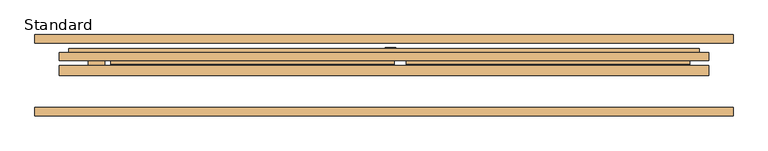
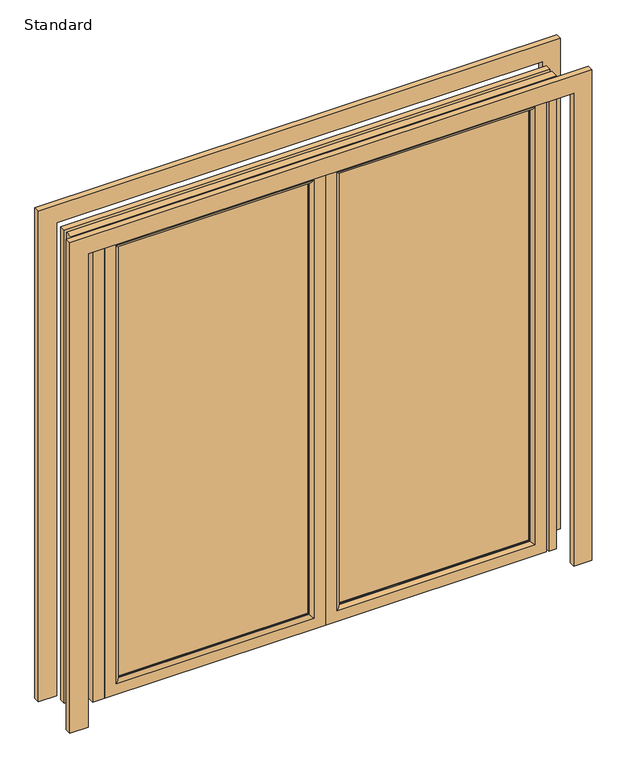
"""IFC4 building model written with IfcOpenShell, lengths in millimetres: door geometry, SMARTS_Visofold1000 : Standard."""

import ifcopenshell
import ifcopenshell.guid

model = None  # the IFC model being written
_history = None  # IfcOwnerHistory: only IFC2X3 demands one
_inside = {}  # id of a spatial element -> (the spatial element, [elements in it])
_under = {}  # id of a project, library or spatial element -> (it, [spatial elements below it])
_declared = {}  # id of a project -> (the project, [libraries it declares])
_typed = {}  # id of a type object -> (the type object, [elements of that type])
_made_of = {}  # id of a material, layer set ... -> (it, [elements and type objects made of it])


def new_model(schema):
    """Start an empty IFC model of exactly this schema.

    Asked for "IFC4X3", IfcOpenShell would pick the latest addendum, in which some entities
    have other attributes; the version numbers below select the first issue.
    IFC2X3 requires an IfcOwnerHistory on every rooted entity: one is made here for all.
    """
    global model, _history
    if schema == "IFC4X3":
        model = ifcopenshell.file(schema_version=(4, 3, 0, 0))
    else:
        model = ifcopenshell.file(schema=schema)
    _inside.clear()
    _under.clear()
    _declared.clear()
    _typed.clear()
    _made_of.clear()
    _history = None
    if model.schema == "IFC2X3":
        org = make("IfcOrganization", Name="unknown")
        user = make(
            "IfcPersonAndOrganization",
            ThePerson=make("IfcPerson", FamilyName="unknown"),
            TheOrganization=org,
        )
        app = make(
            "IfcApplication",
            ApplicationDeveloper=org,
            Version="unknown",
            ApplicationFullName="unknown",
            ApplicationIdentifier="unknown",
        )
        _history = make(
            "IfcOwnerHistory",
            OwningUser=user,
            OwningApplication=app,
            ChangeAction="ADDED",
            CreationDate=0,
        )
    return model


def make(cls, **values):
    """One entity of the class cls with the attributes given. An attribute that is None is left unset."""
    return model.create_entity(
        cls, **{name: value for name, value in values.items() if value is not None}
    )


def rooted(cls, **values):
    """An entity with a GlobalId (a new one), such as an element, a storey or a relation."""
    return make(cls, GlobalId=ifcopenshell.guid.new(), OwnerHistory=_history, **values)


def si_unit(unit_type, name, prefix=None):
    """IfcSIUnit, for example si_unit("LENGTHUNIT", "METRE", prefix="MILLI")."""
    return make("IfcSIUnit", UnitType=unit_type, Prefix=prefix, Name=name)


def assignment(units):
    """IfcUnitAssignment: the units of a project."""
    return None if units is None else make("IfcUnitAssignment", Units=units)


def point(xyz):
    """IfcCartesianPoint."""
    return None if xyz is None else make("IfcCartesianPoint", Coordinates=xyz)


def direction(xyz):
    """IfcDirection."""
    return None if xyz is None else make("IfcDirection", DirectionRatios=xyz)


def frame(location, z_axis=None, x_axis=None):
    """IfcAxis2Placement3D, a coordinate frame: its origin and axes. An axis left out is left unset."""
    return make(
        "IfcAxis2Placement3D",
        Location=point(location),
        Axis=direction(z_axis),
        RefDirection=direction(x_axis),
    )


def frame_2d(location, x_axis=None):
    """IfcAxis2Placement2D, a coordinate frame in the plane: its origin and x axis."""
    return make(
        "IfcAxis2Placement2D", Location=point(location), RefDirection=direction(x_axis)
    )


def origin():
    """The frame at (0, 0, 0) with its axes left unset."""
    return frame((0.0, 0.0, 0.0))


def origin_with_axes():
    """The frame at (0, 0, 0) with the z axis (0, 0, 1) and the x axis (1, 0, 0) written out."""
    return frame((0.0, 0.0, 0.0), z_axis=(0.0, 0.0, 1.0), x_axis=(1.0, 0.0, 0.0))


def place(relative_to, where):
    """IfcLocalPlacement: puts the frame where relative to a parent placement (None: the world)."""
    return make(
        "IfcLocalPlacement", PlacementRelTo=relative_to, RelativePlacement=where
    )


def context(
    kind, dimensions, precision=None, world=None, true_north=None, identifier=None
):
    """IfcGeometricRepresentationContext, for example the 3D "Model" context."""
    return make(
        "IfcGeometricRepresentationContext",
        ContextIdentifier=identifier,
        ContextType=kind,
        CoordinateSpaceDimension=dimensions,
        Precision=precision,
        WorldCoordinateSystem=world,
        TrueNorth=true_north,
    )


def project(units=None, contexts=None):
    """IfcProject with its units and contexts."""
    return rooted(
        "IfcProject",
        Name="project",
        RepresentationContexts=contexts,
        UnitsInContext=assignment(units),
    )


def spatial(cls, under=None, at=None, **own):
    """A site, building, storey or space (cls), placed at a placement, below another one or the project."""
    s = rooted(cls, ObjectPlacement=at, **own)
    if under is not None:
        _under.setdefault(under.id(), (under, []))[1].append(s)
    return s


def polyline(points):
    """IfcPolyline through the points."""
    return make("IfcPolyline", Points=[point(p) for p in points])


def circle_curve(where, radius):
    """IfcCircle in the frame where."""
    return make("IfcCircle", Position=where, Radius=radius)


def ellipse_curve(where, semi_axis1, semi_axis2):
    """IfcEllipse in the frame where."""
    return make(
        "IfcEllipse", Position=where, SemiAxis1=semi_axis1, SemiAxis2=semi_axis2
    )


def trimmed(basis, trim1, trim2, sense, master):
    """IfcTrimmedCurve: the piece of a basis curve between two trims."""
    return make(
        "IfcTrimmedCurve",
        BasisCurve=basis,
        Trim1=trim1,
        Trim2=trim2,
        SenseAgreement=sense,
        MasterRepresentation=master,
    )


def segment(curve, same_sense, transition):
    """IfcCompositeCurveSegment."""
    return make(
        "IfcCompositeCurveSegment",
        Transition=transition,
        SameSense=same_sense,
        ParentCurve=curve,
    )


def composite_curve(segments, self_intersect=None):
    """IfcCompositeCurve: segments joined end to end."""
    return make("IfcCompositeCurve", Segments=segments, SelfIntersect=self_intersect)


def outline(outer, holes=None, kind="AREA"):
    """IfcArbitraryClosedProfileDef: a profile drawn as a closed curve; with holes, ...WithVoids."""
    if holes is None:
        return make("IfcArbitraryClosedProfileDef", ProfileType=kind, OuterCurve=outer)
    return make(
        "IfcArbitraryProfileDefWithVoids",
        ProfileType=kind,
        OuterCurve=outer,
        InnerCurves=holes,
    )


def extrude(swept, where, along, depth):
    """IfcExtrudedAreaSolid: the profile swept, set in the frame where, extruded along a direction by depth."""
    return make(
        "IfcExtrudedAreaSolid",
        SweptArea=swept,
        Position=where,
        ExtrudedDirection=direction(along),
        Depth=depth,
    )


def faces_of(points, faces, orient=None, outer=None):
    """IfcFace entities. A face is a list of loops; a loop is a list of indices into points, from 0.

    orient and outer hold one flag for each loop. By default every Orientation is true, the
    first loop of a face is its IfcFaceOuterBound and the others are IfcFaceBound.
    """
    made = []
    for i, loops in enumerate(faces):
        bounds = []
        for j, loop in enumerate(loops):
            is_outer = j == 0 if outer is None else outer[i][j]
            bounds.append(
                make(
                    "IfcFaceOuterBound" if is_outer else "IfcFaceBound",
                    Bound=make("IfcPolyLoop", Polygon=[points[k] for k in loop]),
                    Orientation=True if orient is None else orient[i][j],
                )
            )
        made.append(make("IfcFace", Bounds=bounds))
    return made


def faceted_brep(points, faces, orient=None, outer=None, voids=None):
    """IfcFacetedBrep: a solid bounded by flat faces; with voids (closed shells), ...WithVoids."""
    shared = [point(p) for p in points]
    hull = make("IfcClosedShell", CfsFaces=faces_of(shared, faces, orient, outer))
    if voids is None:
        return make("IfcFacetedBrep", Outer=hull)
    return make(
        "IfcFacetedBrepWithVoids",
        Outer=hull,
        Voids=[
            make(cls, CfsFaces=faces_of(shared, fs, o, b)) for cls, fs, o, b in voids
        ],
    )


def shape(context_of_items, identifier, shape_type, items):
    """IfcShapeRepresentation: the items that make up one representation, for example the "Body"."""
    return make(
        "IfcShapeRepresentation",
        ContextOfItems=context_of_items,
        RepresentationIdentifier=identifier,
        RepresentationType=shape_type,
        Items=items,
    )


def source(mapping_origin, context_of_items, identifier, shape_type, items):
    """IfcRepresentationMap: a shape defined once, which mapped items show again and again."""
    return make(
        "IfcRepresentationMap",
        MappingOrigin=mapping_origin,
        MappedRepresentation=shape(context_of_items, identifier, shape_type, items),
    )


def transform(
    local_origin,
    x_axis=None,
    y_axis=None,
    z_axis=None,
    scale=None,
    scale2=None,
    scale3=None,
    uniform=True,
):
    """IfcCartesianTransformationOperator3D, or its non-uniform kind. x_axis, y_axis, z_axis: its Axis1, 2, 3."""
    if uniform:
        return make(
            "IfcCartesianTransformationOperator3D",
            Axis1=direction(x_axis),
            Axis2=direction(y_axis),
            LocalOrigin=point(local_origin),
            Scale=scale,
            Axis3=direction(z_axis),
        )
    return make(
        "IfcCartesianTransformationOperator3DnonUniform",
        Axis1=direction(x_axis),
        Axis2=direction(y_axis),
        LocalOrigin=point(local_origin),
        Scale=scale,
        Axis3=direction(z_axis),
        Scale2=scale2,
        Scale3=scale3,
    )


def mapped(mapping_source, mapping_target):
    """IfcMappedItem: shows the shape of a source again, moved by a transform."""
    return make(
        "IfcMappedItem", MappingSource=mapping_source, MappingTarget=mapping_target
    )


def made_of(thing, what):
    """Note that an element or type object is made of a material, layer set ...; save() writes the relation."""
    if what is not None:
        _made_of.setdefault(what.id(), (what, []))[1].append(thing)
    return thing


def element(
    cls,
    number,
    at=None,
    inside=None,
    cuts=None,
    type_object=None,
    material=None,
    context=None,
    identifier="Body",
    shape_type=None,
    held_by="IfcProductDefinitionShape",
    body=None,
    shapes=None,
    **own,
):
    """One element of the class cls, such as IfcWall. Its Tag is "e" and its number.

    at: its placement. inside: the storey or other place that contains it. cuts: it is an
    opening in that element (IfcRelVoidsElement). A single representation is given by context,
    identifier, shape_type and body (its items); several are given by shapes. held_by: the class
    of the entity that holds the representations. save() writes the other relations.
    """
    e = rooted(cls, Tag="e%d" % number, ObjectPlacement=at, **own)
    if body is not None:
        shapes = [shape(context, identifier, shape_type, body)]
    if shapes is not None:
        e.Representation = make(held_by, Representations=shapes)
    if inside is not None:
        _inside.setdefault(inside.id(), (inside, []))[1].append(e)
    if cuts is not None:
        rooted(
            "IfcRelVoidsElement", RelatingBuildingElement=cuts, RelatedOpeningElement=e
        )
    if type_object is not None:
        _typed.setdefault(type_object.id(), (type_object, []))[1].append(e)
    return made_of(e, material)


def aggregate(whole, parts):
    """IfcRelAggregates: a whole, such as a stair, and the parts it consists of."""
    return rooted("IfcRelAggregates", RelatingObject=whole, RelatedObjects=parts)


def save(model, path):
    """Write the relations noted so far, then the file.

    IfcRelAggregates (storeys below a building ...), IfcRelContainedInSpatialStructure (elements
    in a storey), IfcRelDefinesByType, IfcRelAssociatesMaterial and IfcRelDeclares: one each for
    every whole, place, type object, material and project.
    """
    for whole, parts in _under.values():
        aggregate(whole, parts)
    for where, things in _inside.values():
        rooted(
            "IfcRelContainedInSpatialStructure",
            RelatedElements=things,
            RelatingStructure=where,
        )
    for kind, things in _typed.values():
        rooted("IfcRelDefinesByType", RelatedObjects=things, RelatingType=kind)
    for what, things in _made_of.values():
        rooted("IfcRelAssociatesMaterial", RelatedObjects=things, RelatingMaterial=what)
    for by, libraries in _declared.values():
        rooted("IfcRelDeclares", RelatingContext=by, RelatedDefinitions=libraries)
    model.write(path)


def plane_surface(at):
    """IfcPlane: the flat surface through the origin of the frame at, square to its z axis."""
    return make("IfcPlane", Position=at)


def cylinder_surface(at, radius):
    """IfcCylindricalSurface: all points at the distance radius from the z axis of the frame at."""
    return make("IfcCylindricalSurface", Position=at, Radius=radius)


def advanced_brep(points, edges, surfaces, faces):
    """IfcAdvancedBrep: a solid bounded by faces that lie on surfaces and meet in shared edges.

    An edge is (start, end): straight between two places in points (the first is 0);
    or (start, end, curve); or (start, end, curve, False) where it runs against its curve.
    A face is (place in surfaces, loops), or (place, loops, False) where it looks against
    its surface's normal. A loop lists edges by number (the first is 1), with a minus sign
    where the edge is run from its end to its start. The first loop is the outer one.
    """
    corners = [point(p) for p in points]
    vertices = [make("IfcVertexPoint", VertexGeometry=c) for c in corners]
    made = []
    for start, end, *more in edges:
        made.append(
            make(
                "IfcEdgeCurve",
                EdgeStart=vertices[start],
                EdgeEnd=vertices[end],
                EdgeGeometry=more[0] if more else make("IfcPolyline", Points=[corners[start], corners[end]]),
                SameSense=more[1] if len(more) > 1 else True,
            )
        )
    hull = []
    for where, loops, *sense in faces:
        bounds = []
        for j, loop in enumerate(loops):
            ring = [make("IfcOrientedEdge", EdgeElement=made[abs(k) - 1], Orientation=k > 0) for k in loop]
            bounds.append(
                make(
                    "IfcFaceOuterBound" if j == 0 else "IfcFaceBound",
                    Bound=make("IfcEdgeLoop", EdgeList=ring),
                    Orientation=True,
                )
            )
        hull.append(make("IfcAdvancedFace", Bounds=bounds, FaceSurface=surfaces[where], SameSense=sense[0] if sense else True))
    return make("IfcAdvancedBrep", Outer=make("IfcClosedShell", CfsFaces=hull))


def standard_de9cbb4d(model_context):
    return source(origin(), model_context, "Body", "SolidModel", [
        extrude(outline(composite_curve([segment(polyline([(1228.0996413, 4.0), (1040.0996413, 4.0)]), True, "CONTINUOUS"), segment(trimmed(circle_curve(frame_2d((1040.0996413, 20.0)), 16.0), [point((1040.0996413, 4.0))], [point((1040.0996413, 36.0))], False, "CARTESIAN"), True, "CONTINUOUS"), segment(polyline([(1040.0996413, 36.0), (1228.0996413, 36.0)]), True, "CONTINUOUS"), segment(trimmed(circle_curve(frame_2d((1228.0996413, 20.0)), 16.0), [point((1228.0996413, 36.0))], [point((1228.0996413, 4.0))], False, "CARTESIAN"), True, "CONTINUOUS")], self_intersect=False)), frame((0.0, 75.0, 0.0), z_axis=(0.0, 1.0, 0.0), x_axis=(0.0, 0.0, 1.0)), (0.0, 0.0, 1.0), 10.0),
        extrude(outline(polyline([(45.0, 5.0), (1955.0, 5.0), (1955.0, -815.0), (45.0, -815.0), (45.0, 5.0)]), holes=[polyline([(1939.5, -10.5), (60.5, -10.5), (60.5, -799.5), (1939.5, -799.5), (1939.5, -10.5)])]), frame((0.0, 17.4, 0.0), z_axis=(0.0, 1.0, 0.0), x_axis=(0.0, 0.0, 1.0)), (0.0, 0.0, 1.0), 35.0),
        faceted_brep([(50.0, 74.4, 0.0), (50.0, 74.4, 2000.0), (50.0, 52.4, 2000.0), (50.0, 52.4, 0.0), (-10.5, 52.4, 60.5), (-10.5, 52.4, 1939.5), (-10.5, 74.4, 1939.5), (-10.5, 74.4, 60.5), (-860.0, 74.4, 2000.0), (-860.0, 52.4, 2000.0), (-799.5, 52.4, 1939.5), (-799.5, 74.4, 1939.5), (-860.0, 74.4, 0.0), (-860.0, 52.4, 0.0), (-799.5, 52.4, 60.5), (-799.5, 74.4, 60.5), (32.1308519, 34.8, 17.8691481), (32.1308519, 34.8, 1982.1308519), (-842.1308519, 34.8, 1982.1308519), (-842.1308519, 34.8, 17.8691481), (5.0, 34.8, 1955.0), (5.0, 34.8, 45.0), (-815.0, 34.8, 45.0), (-815.0, 34.8, 1955.0), (32.1308519, 52.4, 17.8691481), (32.1308519, 52.4, 1982.1308519), (5.0, 52.4, 1955.0), (5.0, 52.4, 45.0), (-842.1308519, 52.4, 1982.1308519), (-815.0, 52.4, 1955.0), (-842.1308519, 52.4, 17.8691481), (-815.0, 52.4, 45.0)], [[[0, 1, 2, 3]], [[4, 5, 6, 7]], [[1, 8, 9, 2]], [[5, 10, 11, 6]], [[8, 12, 13, 9]], [[10, 14, 15, 11]], [[12, 0, 3, 13]], [[1, 0, 12, 8], [7, 6, 11, 15]], [[14, 4, 7, 15]], [[16, 17, 18, 19], [20, 21, 22, 23]], [[24, 25, 17, 16]], [[21, 20, 26, 27]], [[25, 28, 18, 17]], [[20, 23, 29, 26]], [[28, 30, 19, 18]], [[23, 22, 31, 29]], [[30, 24, 16, 19]], [[3, 2, 9, 13], [25, 24, 30, 28]], [[27, 26, 29, 31], [5, 4, 14, 10]], [[22, 21, 27, 31]]]),
        advanced_brep(
        [(-10.5, 13.3, 60.5), (-10.5, 13.3, 1939.5), (-10.5, 17.4, 1939.5), (-10.5, 17.4, 60.5), (50.0, 17.4, 0.0), (50.0, 17.4, 2000.0), (50.0, 0.0, 2000.0), (50.0, 0.0, 0.0), (-799.5, 13.3, 1939.5), (-799.5, 17.4, 1939.5), (-860.0, 17.4, 2000.0), (-860.0, 0.0, 2000.0), (-799.5, 13.3, 60.5), (-799.5, 17.4, 60.5), (-860.0, 17.4, 0.0), (-860.0, 0.0, 0.0), (2.8, 0.0, 1952.8), (2.8, 0.0, 47.2), (-812.8, 0.0, 47.2), (-812.8, 0.0, 1952.8), (32.1308519, 34.8, 17.8691481), (32.1308519, 34.8, 1982.1308519), (32.1308519, 17.4, 1982.1308519), (32.1308519, 17.4, 17.8691481), (-842.1308519, 34.8, 1982.1308519), (-842.1308519, 17.4, 1982.1308519), (-842.1308519, 34.8, 17.8691481), (-842.1308519, 17.4, 17.8691481), (5.0, 17.4, 45.0), (5.0, 17.4, 1955.0), (5.0, 34.8, 1955.0), (5.0, 34.8, 45.0), (-815.0, 17.4, 1955.0), (-815.0, 34.8, 1955.0), (-815.0, 17.4, 45.0), (-815.0, 34.8, 45.0)],
        [
            (0, 1),
            (1, 2),
            (2, 3),
            (3, 0),
            (4, 5),
            (5, 6),
            (6, 7),
            (7, 4),
            (1, 8),
            (8, 9),
            (9, 2),
            (5, 10),
            (10, 11),
            (11, 6),
            (8, 12),
            (12, 13),
            (13, 9),
            (10, 14),
            (14, 15),
            (15, 11),
            (12, 0),
            (3, 13),
            (15, 7),
            (16, 17),
            (17, 18),
            (18, 19),
            (19, 16),
            (14, 4),
            (16, 1, ellipse_curve(frame((2.8, 13.3, 1952.8), z_axis=(0.7071067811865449, 0.0, -0.70710678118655), x_axis=(-0.7071067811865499, 0.0, -0.707106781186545)), 18.8090404, 13.3)),
            (0, 17, ellipse_curve(frame((2.8, 13.3, 47.2), z_axis=(0.70710678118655, 0.0, 0.7071067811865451), x_axis=(0.707106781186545, 0.0, -0.7071067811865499)), 18.8090404, 13.3)),
            (19, 8, ellipse_curve(frame((-812.8, 13.3, 1952.8), z_axis=(0.7071067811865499, 0.0, 0.7071067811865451), x_axis=(0.7071067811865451, 0.0, -0.70710678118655)), 18.8090404, 13.3)),
            (18, 12, ellipse_curve(frame((-812.8, 13.3, 47.2), z_axis=(-0.7071067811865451, 0.0, 0.7071067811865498), x_axis=(0.7071067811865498, 0.0, 0.7071067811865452)), 18.8090404, 13.3)),
            (20, 21),
            (21, 22),
            (22, 23),
            (23, 20),
            (21, 24),
            (24, 25),
            (25, 22),
            (24, 26),
            (26, 27),
            (27, 25),
            (27, 23),
            (26, 20),
            (28, 29),
            (29, 30),
            (30, 31),
            (31, 28),
            (29, 32),
            (32, 33),
            (33, 30),
            (32, 34),
            (34, 35),
            (35, 33),
            (34, 28),
            (31, 35),
        ],
        [
            plane_surface(frame((-10.5, 17.4, 60.5), z_axis=(-1.0, 0.0, 0.0), x_axis=(0.0, 0.0, 1.0))),
            plane_surface(frame((50.0, 0.0, 0.0), z_axis=(1.0, 0.0, 0.0), x_axis=(0.0, 0.0, 1.0))),
            plane_surface(frame((-10.5, 17.4, 1939.5), z_axis=(0.0, 0.0, -1.0), x_axis=(-1.0, 0.0, 0.0))),
            plane_surface(frame((50.0, 0.0, 2000.0), z_axis=(0.0, 0.0, 1.0), x_axis=(-1.0, 0.0, 0.0))),
            plane_surface(frame((-799.5, 17.4, 1939.5), z_axis=(1.0, 0.0, 0.0), x_axis=(0.0, 0.0, -1.0))),
            plane_surface(frame((-860.0, 0.0, 2000.0), z_axis=(-1.0, 0.0, 0.0), x_axis=(0.0, 0.0, -1.0))),
            plane_surface(frame((-799.5, 17.4, 60.5), z_axis=(0.0, 0.0, 1.0), x_axis=(1.0, 0.0, 0.0))),
            plane_surface(frame((-812.8, 0.0, 47.2), z_axis=(0.0, -1.0, 0.0), x_axis=(1.0, 0.0, 0.0))),
            plane_surface(frame((-860.0, 0.0, 0.0), z_axis=(0.0, 0.0, -1.0), x_axis=(1.0, 0.0, 0.0))),
            cylinder_surface(frame((2.8, 13.3, 0.0), z_axis=(0.0, 0.0, -1.0), x_axis=(0.0, 1.0, 0.0)), 13.3),
            cylinder_surface(frame((50.0, 13.3, 1952.8), z_axis=(1.0, 0.0, 0.0), x_axis=(0.0, 1.0, 0.0)), 13.3),
            cylinder_surface(frame((-812.8, 13.3, 2000.0), z_axis=(0.0, 0.0, 1.0), x_axis=(0.0, 1.0, 0.0)), 13.3),
            cylinder_surface(frame((-860.0, 13.3, 47.2), z_axis=(-1.0, 0.0, 0.0), x_axis=(0.0, 1.0, 0.0)), 13.3),
            plane_surface(frame((32.1308519, 17.4, 17.8691481), z_axis=(1.0, 0.0, 0.0), x_axis=(0.0, 0.0, 1.0))),
            plane_surface(frame((32.1308519, 17.4, 1982.1308519), z_axis=(0.0, 0.0, 1.0), x_axis=(-1.0, 0.0, 0.0))),
            plane_surface(frame((-842.1308519, 17.4, 1982.1308519), z_axis=(-1.0, 0.0, 0.0), x_axis=(0.0, 0.0, -1.0))),
            plane_surface(frame((-860.0, 17.4, 0.0), z_axis=(0.0, 1.0, 0.0), x_axis=(1.0, 0.0, 0.0))),
            plane_surface(frame((-842.1308519, 17.4, 17.8691481), z_axis=(0.0, 0.0, -1.0), x_axis=(1.0, 0.0, 0.0))),
            plane_surface(frame((5.0, 34.8, 45.0), z_axis=(-1.0, 0.0, 0.0), x_axis=(0.0, 0.0, 1.0))),
            plane_surface(frame((5.0, 34.8, 1955.0), z_axis=(0.0, 0.0, -1.0), x_axis=(-1.0, 0.0, 0.0))),
            plane_surface(frame((-815.0, 34.8, 1955.0), z_axis=(1.0, 0.0, 0.0), x_axis=(0.0, 0.0, -1.0))),
            plane_surface(frame((-815.0, 34.8, 45.0), z_axis=(0.0, 0.0, 1.0), x_axis=(1.0, 0.0, 0.0))),
            plane_surface(frame((-815.0, 17.4, 45.0), z_axis=(0.0, 1.0, 0.0), x_axis=(1.0, 0.0, 0.0))),
            plane_surface(frame((-842.1308519, 34.8, 17.8691481), z_axis=(0.0, 1.0, 0.0), x_axis=(1.0, 0.0, 0.0))),
        ],
        [
            (0, [[1, 2, 3, 4]]),
            (1, [[5, 6, 7, 8]]),
            (2, [[9, 10, 11, -2]]),
            (3, [[12, 13, 14, -6]]),
            (4, [[15, 16, 17, -10]]),
            (5, [[18, 19, 20, -13]]),
            (6, [[21, -4, 22, -16]]),
            (7, [[-7, -14, -20, 23], [24, 25, 26, 27]]),
            (8, [[28, -8, -23, -19]]),
            (9, [[-24, 29, -1, 30]]),
            (10, [[-27, 31, -9, -29]]),
            (11, [[-26, 32, -15, -31]]),
            (12, [[-25, -30, -21, -32]]),
            (13, [[33, 34, 35, 36]]),
            (14, [[37, 38, 39, -34]]),
            (15, [[40, 41, 42, -38]]),
            (16, [[-5, -28, -18, -12], [-35, -39, -42, 43]]),
            (17, [[44, -36, -43, -41]]),
            (18, [[45, 46, 47, 48]]),
            (19, [[49, 50, 51, -46]]),
            (20, [[52, 53, 54, -50]]),
            (21, [[55, -48, 56, -53]]),
            (22, [[-45, -55, -52, -49], [-3, -11, -17, -22]]),
            (23, [[-33, -44, -40, -37], [-47, -51, -54, -56]]),
        ],
    ),
        extrude(outline(polyline([(-10.5, 50.1484783), (-10.5, 21.4), (-799.5, 21.4), (-799.5, 50.1484783), (-10.5, 50.1484783)])), frame((0.0, 0.0, 60.5), z_axis=(0.0, 0.0, 1.0), x_axis=(1.0, 0.0, 0.0)), (0.0, 0.0, 1.0), 1879.0),
        extrude(outline(polyline([(45.0, 95.0), (45.0, 915.0), (1955.0, 915.0), (1955.0, 95.0), (45.0, 95.0)]), holes=[polyline([(1939.5, 110.5), (1939.5, 899.5), (60.5, 899.5), (60.5, 110.5), (1939.5, 110.5)])]), frame((0.0, 17.4, 0.0), z_axis=(0.0, 1.0, 0.0), x_axis=(0.0, 0.0, 1.0)), (0.0, 0.0, 1.0), 35.0),
        faceted_brep([(50.0, 74.4, 0.0), (50.0, 52.4, 0.0), (50.0, 52.4, 2000.0), (50.0, 74.4, 2000.0), (110.5, 52.4, 60.5), (110.5, 74.4, 60.5), (110.5, 74.4, 1939.5), (110.5, 52.4, 1939.5), (960.0, 74.4, 0.0), (960.0, 52.4, 0.0), (960.0, 52.4, 2000.0), (960.0, 74.4, 2000.0), (899.5, 74.4, 1939.5), (899.5, 52.4, 1939.5), (899.5, 74.4, 60.5), (899.5, 52.4, 60.5), (67.8691481, 34.8, 17.8691481), (942.1308519, 34.8, 17.8691481), (942.1308519, 34.8, 1982.1308519), (67.8691481, 34.8, 1982.1308519), (95.0, 34.8, 1955.0), (915.0, 34.8, 1955.0), (915.0, 34.8, 45.0), (95.0, 34.8, 45.0), (67.8691481, 52.4, 17.8691481), (67.8691481, 52.4, 1982.1308519), (95.0, 52.4, 45.0), (95.0, 52.4, 1955.0), (942.1308519, 52.4, 1982.1308519), (915.0, 52.4, 1955.0), (942.1308519, 52.4, 17.8691481), (915.0, 52.4, 45.0)], [[[0, 1, 2, 3]], [[4, 5, 6, 7]], [[8, 9, 1, 0]], [[3, 2, 10, 11]], [[7, 6, 12, 13]], [[11, 10, 9, 8]], [[13, 12, 14, 15]], [[3, 11, 8, 0], [5, 14, 12, 6]], [[15, 14, 5, 4]], [[16, 17, 18, 19], [20, 21, 22, 23]], [[24, 16, 19, 25]], [[23, 26, 27, 20]], [[25, 19, 18, 28]], [[20, 27, 29, 21]], [[28, 18, 17, 30]], [[21, 29, 31, 22]], [[30, 17, 16, 24]], [[1, 9, 10, 2], [25, 28, 30, 24]], [[26, 31, 29, 27], [7, 13, 15, 4]], [[22, 31, 26, 23]]]),
        advanced_brep(
        [(110.5, 13.3, 60.5), (110.5, 17.4, 60.5), (110.5, 17.4, 1939.5), (110.5, 13.3, 1939.5), (50.0, 17.4, 0.0), (50.0, 0.0, 0.0), (50.0, 0.0, 2000.0), (50.0, 17.4, 2000.0), (899.5, 17.4, 1939.5), (899.5, 13.3, 1939.5), (960.0, 0.0, 2000.0), (960.0, 17.4, 2000.0), (899.5, 17.4, 60.5), (899.5, 13.3, 60.5), (960.0, 0.0, 0.0), (960.0, 17.4, 0.0), (97.2, 0.0, 1952.8), (912.8, 0.0, 1952.8), (912.8, 0.0, 47.2), (97.2, 0.0, 47.2), (67.8691481, 34.8, 17.8691481), (67.8691481, 17.4, 17.8691481), (67.8691481, 17.4, 1982.1308519), (67.8691481, 34.8, 1982.1308519), (942.1308519, 17.4, 1982.1308519), (942.1308519, 34.8, 1982.1308519), (942.1308519, 17.4, 17.8691481), (942.1308519, 34.8, 17.8691481), (95.0, 17.4, 45.0), (95.0, 34.8, 45.0), (95.0, 34.8, 1955.0), (95.0, 17.4, 1955.0), (915.0, 34.8, 1955.0), (915.0, 17.4, 1955.0), (915.0, 34.8, 45.0), (915.0, 17.4, 45.0)],
        [
            (0, 1),
            (1, 2),
            (2, 3),
            (3, 0),
            (4, 5),
            (5, 6),
            (6, 7),
            (7, 4),
            (2, 8),
            (8, 9),
            (9, 3),
            (6, 10),
            (10, 11),
            (11, 7),
            (8, 12),
            (12, 13),
            (13, 9),
            (10, 14),
            (14, 15),
            (15, 11),
            (12, 1),
            (0, 13),
            (5, 14),
            (16, 17),
            (17, 18),
            (18, 19),
            (19, 16),
            (4, 15),
            (19, 0, ellipse_curve(frame((97.2, 13.3, 47.2), z_axis=(-0.70710678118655, 0.0, 0.7071067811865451), x_axis=(-0.707106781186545, 0.0, -0.7071067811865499)), 18.8090404, 13.3)),
            (3, 16, ellipse_curve(frame((97.2, 13.3, 1952.8), z_axis=(-0.7071067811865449, 0.0, -0.70710678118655), x_axis=(0.7071067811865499, 0.0, -0.707106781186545)), 18.8090404, 13.3)),
            (9, 17, ellipse_curve(frame((912.8, 13.3, 1952.8), z_axis=(-0.7071067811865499, 0.0, 0.7071067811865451), x_axis=(-0.7071067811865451, 0.0, -0.70710678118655)), 18.8090404, 13.3)),
            (13, 18, ellipse_curve(frame((912.8, 13.3, 47.2), z_axis=(0.7071067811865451, 0.0, 0.7071067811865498), x_axis=(-0.7071067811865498, 0.0, 0.7071067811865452)), 18.8090404, 13.3)),
            (20, 21),
            (21, 22),
            (22, 23),
            (23, 20),
            (22, 24),
            (24, 25),
            (25, 23),
            (24, 26),
            (26, 27),
            (27, 25),
            (21, 26),
            (20, 27),
            (28, 29),
            (29, 30),
            (30, 31),
            (31, 28),
            (30, 32),
            (32, 33),
            (33, 31),
            (32, 34),
            (34, 35),
            (35, 33),
            (34, 29),
            (28, 35),
        ],
        [
            plane_surface(frame((110.5, 17.4, 60.5), z_axis=(1.0, 0.0, 0.0), x_axis=(0.0, 0.0, 1.0))),
            plane_surface(frame((50.0, 0.0, 0.0), z_axis=(-1.0, 0.0, 0.0), x_axis=(0.0, 0.0, 1.0))),
            plane_surface(frame((110.5, 17.4, 1939.5), z_axis=(0.0, 0.0, -1.0), x_axis=(1.0, 0.0, 0.0))),
            plane_surface(frame((50.0, 0.0, 2000.0), z_axis=(0.0, 0.0, 1.0), x_axis=(1.0, 0.0, 0.0))),
            plane_surface(frame((899.5, 17.4, 1939.5), z_axis=(-1.0, 0.0, 0.0), x_axis=(0.0, 0.0, -1.0))),
            plane_surface(frame((960.0, 0.0, 2000.0), z_axis=(1.0, 0.0, 0.0), x_axis=(0.0, 0.0, -1.0))),
            plane_surface(frame((899.5, 17.4, 60.5), z_axis=(0.0, 0.0, 1.0), x_axis=(-1.0, 0.0, 0.0))),
            plane_surface(frame((912.8, 0.0, 47.2), z_axis=(0.0, -1.0, 0.0), x_axis=(-1.0, 0.0, 0.0))),
            plane_surface(frame((960.0, 0.0, 0.0), z_axis=(0.0, 0.0, -1.0), x_axis=(-1.0, 0.0, 0.0))),
            cylinder_surface(frame((97.2, 13.3, 0.0), z_axis=(0.0, 0.0, -1.0), x_axis=(0.0, 1.0, 0.0)), 13.3),
            cylinder_surface(frame((50.0, 13.3, 1952.8), z_axis=(-1.0, 0.0, 0.0), x_axis=(0.0, 1.0, 0.0)), 13.3),
            cylinder_surface(frame((912.8, 13.3, 2000.0), z_axis=(0.0, 0.0, 1.0), x_axis=(0.0, 1.0, 0.0)), 13.3),
            cylinder_surface(frame((960.0, 13.3, 47.2), z_axis=(1.0, 0.0, 0.0), x_axis=(0.0, 1.0, 0.0)), 13.3),
            plane_surface(frame((67.8691481, 17.4, 17.8691481), z_axis=(-1.0, 0.0, 0.0), x_axis=(0.0, 0.0, 1.0))),
            plane_surface(frame((67.8691481, 17.4, 1982.1308519), z_axis=(0.0, 0.0, 1.0), x_axis=(1.0, 0.0, 0.0))),
            plane_surface(frame((942.1308519, 17.4, 1982.1308519), z_axis=(1.0, 0.0, 0.0), x_axis=(0.0, 0.0, -1.0))),
            plane_surface(frame((960.0, 17.4, 0.0), z_axis=(0.0, 1.0, 0.0), x_axis=(-1.0, 0.0, 0.0))),
            plane_surface(frame((942.1308519, 17.4, 17.8691481), z_axis=(0.0, 0.0, -1.0), x_axis=(-1.0, 0.0, 0.0))),
            plane_surface(frame((95.0, 34.8, 45.0), z_axis=(1.0, 0.0, 0.0), x_axis=(0.0, 0.0, 1.0))),
            plane_surface(frame((95.0, 34.8, 1955.0), z_axis=(0.0, 0.0, -1.0), x_axis=(1.0, 0.0, 0.0))),
            plane_surface(frame((915.0, 34.8, 1955.0), z_axis=(-1.0, 0.0, 0.0), x_axis=(0.0, 0.0, -1.0))),
            plane_surface(frame((915.0, 34.8, 45.0), z_axis=(0.0, 0.0, 1.0), x_axis=(-1.0, 0.0, 0.0))),
            plane_surface(frame((915.0, 17.4, 45.0), z_axis=(0.0, 1.0, 0.0), x_axis=(-1.0, 0.0, 0.0))),
            plane_surface(frame((942.1308519, 34.8, 17.8691481), z_axis=(0.0, 1.0, 0.0), x_axis=(-1.0, 0.0, 0.0))),
        ],
        [
            (0, [[1, 2, 3, 4]]),
            (1, [[5, 6, 7, 8]]),
            (2, [[-3, 9, 10, 11]]),
            (3, [[-7, 12, 13, 14]]),
            (4, [[-10, 15, 16, 17]]),
            (5, [[-13, 18, 19, 20]]),
            (6, [[-16, 21, -1, 22]]),
            (7, [[23, -18, -12, -6], [24, 25, 26, 27]]),
            (8, [[-19, -23, -5, 28]]),
            (9, [[29, -4, 30, -27]]),
            (10, [[-30, -11, 31, -24]]),
            (11, [[-31, -17, 32, -25]]),
            (12, [[-32, -22, -29, -26]]),
            (13, [[33, 34, 35, 36]]),
            (14, [[-35, 37, 38, 39]]),
            (15, [[-38, 40, 41, 42]]),
            (16, [[-14, -20, -28, -8], [43, -40, -37, -34]]),
            (17, [[-41, -43, -33, 44]]),
            (18, [[45, 46, 47, 48]]),
            (19, [[-47, 49, 50, 51]]),
            (20, [[-50, 52, 53, 54]]),
            (21, [[-53, 55, -45, 56]]),
            (22, [[-51, -54, -56, -48], [-21, -15, -9, -2]]),
            (23, [[-39, -42, -44, -36], [-55, -52, -49, -46]]),
        ],
    ),
        extrude(outline(polyline([(110.5, 50.1484783), (899.5, 50.1484783), (899.5, 21.4), (110.5, 21.4), (110.5, 50.1484783)])), frame((0.0, 0.0, 60.5), z_axis=(0.0, 0.0, 1.0), x_axis=(1.0, 0.0, 0.0)), (0.0, 0.0, 1.0), 1879.0),
        extrude(outline(polyline([(-910.0, 0.0), (-910.0, 75.1750992), (-860.0, 75.1750992), (-860.0, 0.0), (-910.0, 0.0)])), origin_with_axes(), (0.0, 0.0, 1.0), 2000.0),
        extrude(outline(polyline([(2058.6516063, -1000.0), (2058.6516063, 1000.0), (0.0, 1000.0), (0.0, 1075.0), (2133.6516063, 1075.0), (2133.6516063, -1075.0), (0.0, -1075.0), (0.0, -1000.0), (2058.6516063, -1000.0)])), frame((0.0, 100.0, 0.0), z_axis=(0.0, 1.0, 0.0), x_axis=(0.0, 0.0, 1.0)), (0.0, 0.0, 1.0), 25.0),
        extrude(outline(polyline([(2133.6516063, -1075.0), (0.0, -1075.0), (0.0, -1000.0), (2058.6516063, -1000.0), (2058.6516063, 1000.0), (0.0, 1000.0), (0.0, 1075.0), (2133.6516063, 1075.0), (2133.6516063, -1075.0)])), frame((0.0, -125.0, 0.0), z_axis=(0.0, 1.0, 0.0), x_axis=(0.0, 0.0, 1.0)), (0.0, 0.0, 1.0), 25.0),
        extrude(outline(polyline([(0.0, 968.8), (0.0, 1000.0), (2058.6516063, 1000.0), (2058.6516063, -1000.0), (0.0, -1000.0), (0.0, -968.8), (2027.4516063, -968.8), (2027.4516063, 968.8), (0.0, 968.8)])), frame((0.0, 0.0, 0.0), z_axis=(0.0, 1.0, 0.0), x_axis=(0.0, 0.0, 1.0)), (0.0, 0.0, 1.0), 29.65),
        faceted_brep([(1000.0, 44.85, 0.0), (968.8, 44.85, 0.0), (968.8, 77.4, 0.0), (948.3, 77.4, 0.0), (948.3, 81.9, 0.0), (970.6, 81.9, 0.0), (970.6, 70.0, 0.0), (1000.0, 70.0, 0.0), (1000.0, 44.85, 2058.6516063), (-1000.0, 44.85, 2058.6516063), (-1000.0, 44.85, 0.0), (-968.8, 44.85, 0.0), (-968.8, 44.85, 2027.4516063), (968.8, 44.85, 2027.4516063), (968.8, 77.4, 2027.4516063), (-968.8, 77.4, 2027.4516063), (-968.8, 77.4, 0.0), (-948.3, 77.4, 0.0), (-948.3, 77.4, 2006.9516063), (948.3, 77.4, 2006.9516063), (948.3, 81.9, 2006.9516063), (-948.3, 81.9, 2006.9516063), (-948.3, 81.9, 0.0), (-970.6, 81.9, 0.0), (-970.6, 81.9, 2029.2516063), (970.6, 81.9, 2029.2516063), (970.6, 70.0, 2029.2516063), (-970.6, 70.0, 2029.2516063), (-970.6, 70.0, 0.0), (-1000.0, 70.0, 0.0), (-1000.0, 70.0, 2058.6516063), (1000.0, 70.0, 2058.6516063)], [[[0, 1, 2, 3, 4, 5, 6, 7]], [[1, 0, 8, 9, 10, 11, 12, 13]], [[2, 1, 13, 14]], [[3, 2, 14, 15, 16, 17, 18, 19]], [[4, 3, 19, 20]], [[5, 4, 20, 21, 22, 23, 24, 25]], [[6, 5, 25, 26]], [[7, 6, 26, 27, 28, 29, 30, 31]], [[0, 7, 31, 8]], [[10, 29, 28, 23, 22, 17, 16, 11]], [[9, 30, 29, 10]], [[27, 24, 23, 28]], [[21, 18, 17, 22]], [[15, 12, 11, 16]], [[8, 31, 30, 9]], [[14, 13, 12, 15]], [[26, 25, 24, 27]], [[20, 19, 18, 21]]]),
    ])


if __name__ == "__main__":
    model = new_model("IFC4")
    model_context = context("Model", 3, world=origin())
    ifc_project = project(units=[si_unit("LENGTHUNIT", "METRE", prefix="MILLI")], contexts=[model_context])
    site = spatial("IfcSite", under=ifc_project)
    building = spatial("IfcBuilding", under=site)
    placement = place(None, origin())
    standard_shape = standard_de9cbb4d(model_context)
    element("IfcDoor", 1, ObjectType="SMARTS_Visofold1000 : Standard", at=placement, inside=building, context=model_context, shape_type="MappedRepresentation", body=[
        mapped(standard_shape, transform((0.0, 0.0, 0.0), x_axis=(1.0, 0.0, 0.0), y_axis=(0.0, 1.0, 0.0), z_axis=(0.0, 0.0, 1.0))),
    ])
    save(model, "model.ifc")
